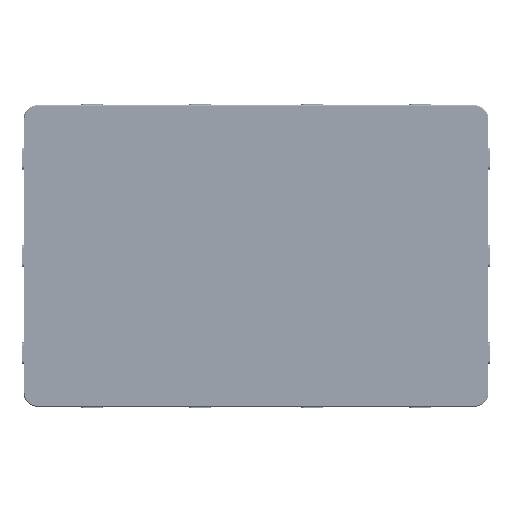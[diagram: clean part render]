
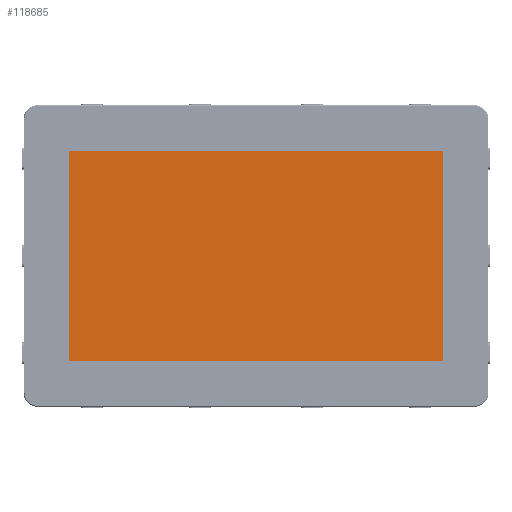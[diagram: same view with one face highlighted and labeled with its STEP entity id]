
A CAD part, top view. The second image highlights one B-rep face of the part: STEP entity #118685.
In plain terms, the highlighted planar face has unit normal (0, 0, 1).
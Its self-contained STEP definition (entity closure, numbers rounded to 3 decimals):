
#10674 = CARTESIAN_POINT ( 'NONE',  ( 172.615, -97.27, 0. ) ) ;
#13021 = VERTEX_POINT ( 'NONE', #118172 ) ;
#14248 = VECTOR ( 'NONE', #388507, 1000. ) ;
#24389 = LINE ( 'NONE', #252611, #14248 ) ;
#52243 = DIRECTION ( 'NONE',  ( -1., 0., 0. ) ) ;
#66269 = DIRECTION ( 'NONE',  ( 0., -1., 0. ) ) ;
#89670 = ORIENTED_EDGE ( 'NONE', *, *, #374742, .T. ) ;
#104444 = EDGE_CURVE ( 'NONE', #280328, #13021, #366718, .T. ) ;
#118172 = CARTESIAN_POINT ( 'NONE',  ( -172.615, -97.27, 0. ) ) ;
#118685 = ADVANCED_FACE ( 'NONE', ( #362898 ), #163306, .F. ) ;
#128541 = ORIENTED_EDGE ( 'NONE', *, *, #245590, .T. ) ;
#129441 = CARTESIAN_POINT ( 'NONE',  ( -172.615, 97.27, 0. ) ) ;
#150492 = CARTESIAN_POINT ( 'NONE',  ( 172.615, 97.27, 0. ) ) ;
#150947 = DIRECTION ( 'NONE',  ( 0., 0., -1. ) ) ;
#155053 = VERTEX_POINT ( 'NONE', #10674 ) ;
#159287 = CARTESIAN_POINT ( 'NONE',  ( 172.615, -97.27, 0. ) ) ;
#163306 = PLANE ( 'NONE',  #397102 ) ;
#166612 = DIRECTION ( 'NONE',  ( -1., 0., 0. ) ) ;
#175428 = CARTESIAN_POINT ( 'NONE',  ( -172.615, 97.27, 0. ) ) ;
#194382 = LINE ( 'NONE', #159287, #402260 ) ;
#222948 = ORIENTED_EDGE ( 'NONE', *, *, #252782, .T. ) ;
#232488 = LINE ( 'NONE', #129441, #282664 ) ;
#245590 = EDGE_CURVE ( 'NONE', #155053, #372730, #194382, .T. ) ;
#252611 = CARTESIAN_POINT ( 'NONE',  ( -172.615, -97.27, 0. ) ) ;
#252782 = EDGE_CURVE ( 'NONE', #372730, #280328, #232488, .T. ) ;
#280328 = VERTEX_POINT ( 'NONE', #175428 ) ;
#282664 = VECTOR ( 'NONE', #166612, 1000. ) ;
#297412 = DIRECTION ( 'NONE',  ( 0., 1., 0. ) ) ;
#305251 = CARTESIAN_POINT ( 'NONE',  ( -172.615, -97.27, 0. ) ) ;
#357380 = ORIENTED_EDGE ( 'NONE', *, *, #104444, .T. ) ;
#361943 = EDGE_LOOP ( 'NONE', ( #89670, #128541, #222948, #357380 ) ) ;
#362898 = FACE_OUTER_BOUND ( 'NONE', #361943, .T. ) ;
#366718 = LINE ( 'NONE', #305251, #380289 ) ;
#372730 = VERTEX_POINT ( 'NONE', #150492 ) ;
#374742 = EDGE_CURVE ( 'NONE', #13021, #155053, #24389, .T. ) ;
#380289 = VECTOR ( 'NONE', #66269, 1000. ) ;
#388507 = DIRECTION ( 'NONE',  ( 1., 0., 0. ) ) ;
#397102 = AXIS2_PLACEMENT_3D ( 'NONE', #416349, #150947, #52243 ) ;
#402260 = VECTOR ( 'NONE', #297412, 1000. ) ;
#416349 = CARTESIAN_POINT ( 'NONE',  ( -202., -126.5, 0. ) ) ;
